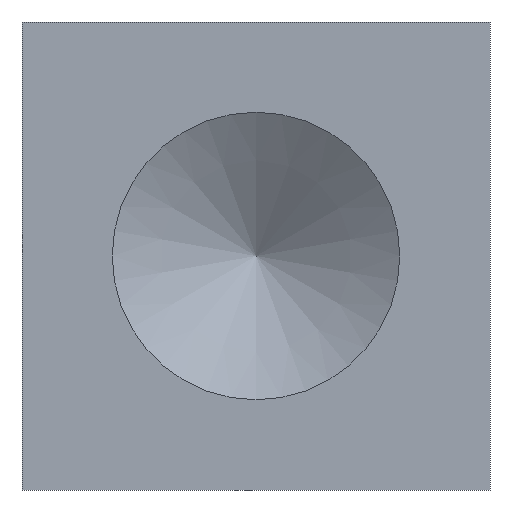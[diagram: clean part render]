
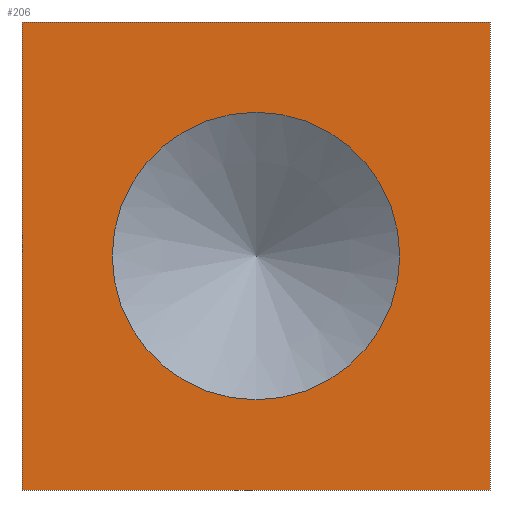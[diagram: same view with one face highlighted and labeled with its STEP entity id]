
A CAD part, front view. The second image highlights one B-rep face of the part: STEP entity #206.
In plain terms, the highlighted planar face has unit normal (0, -1, 0).
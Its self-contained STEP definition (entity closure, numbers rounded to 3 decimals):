
#23=LINE('',#334,#39);
#26=LINE('',#339,#42);
#28=LINE('',#343,#44);
#30=LINE('',#346,#46);
#39=VECTOR('',#277,10.);
#42=VECTOR('',#282,10.);
#44=VECTOR('',#286,10.);
#46=VECTOR('',#290,10.);
#56=PLANE('',#230);
#60=FACE_BOUND('',#94,.T.);
#76=FACE_OUTER_BOUND('',#93,.T.);
#93=EDGE_LOOP('',(#186,#187,#188,#189));
#94=EDGE_LOOP('',(#190));
#96=CIRCLE('',#212,4.3);
#104=VERTEX_POINT('',#298);
#115=VERTEX_POINT('',#332);
#116=VERTEX_POINT('',#333);
#117=VERTEX_POINT('',#338);
#118=VERTEX_POINT('',#342);
#120=EDGE_CURVE('',#104,#104,#96,.T.);
#135=EDGE_CURVE('',#115,#116,#23,.T.);
#138=EDGE_CURVE('',#116,#117,#26,.T.);
#140=EDGE_CURVE('',#117,#118,#28,.T.);
#142=EDGE_CURVE('',#118,#115,#30,.T.);
#186=ORIENTED_EDGE('',*,*,#142,.T.);
#187=ORIENTED_EDGE('',*,*,#135,.T.);
#188=ORIENTED_EDGE('',*,*,#138,.T.);
#189=ORIENTED_EDGE('',*,*,#140,.T.);
#190=ORIENTED_EDGE('',*,*,#120,.T.);
#206=ADVANCED_FACE('',(#76,#60),#56,.F.);
#212=AXIS2_PLACEMENT_3D('',#299,#239,#240);
#230=AXIS2_PLACEMENT_3D('',#347,#291,#292);
#239=DIRECTION('center_axis',(0.,1.,0.));
#240=DIRECTION('ref_axis',(0.,0.,-1.));
#277=DIRECTION('',(0.,0.,1.));
#282=DIRECTION('',(-1.,0.,0.));
#286=DIRECTION('',(0.,0.,-1.));
#290=DIRECTION('',(1.,0.,0.));
#291=DIRECTION('center_axis',(0.,1.,0.));
#292=DIRECTION('ref_axis',(1.,0.,0.));
#298=CARTESIAN_POINT('',(0.,0.,-4.3));
#299=CARTESIAN_POINT('Origin',(0.,0.,0.));
#332=CARTESIAN_POINT('',(7.,0.,-7.));
#333=CARTESIAN_POINT('',(7.,0.,7.));
#334=CARTESIAN_POINT('',(7.,0.,-7.));
#338=CARTESIAN_POINT('',(-7.,0.,7.));
#339=CARTESIAN_POINT('',(7.,0.,7.));
#342=CARTESIAN_POINT('',(-7.,0.,-7.));
#343=CARTESIAN_POINT('',(-7.,0.,7.));
#346=CARTESIAN_POINT('',(-7.,0.,-7.));
#347=CARTESIAN_POINT('Origin',(0.,0.,0.));
